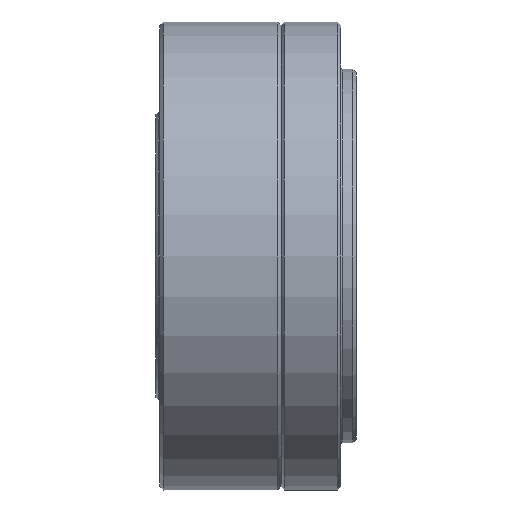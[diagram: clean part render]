
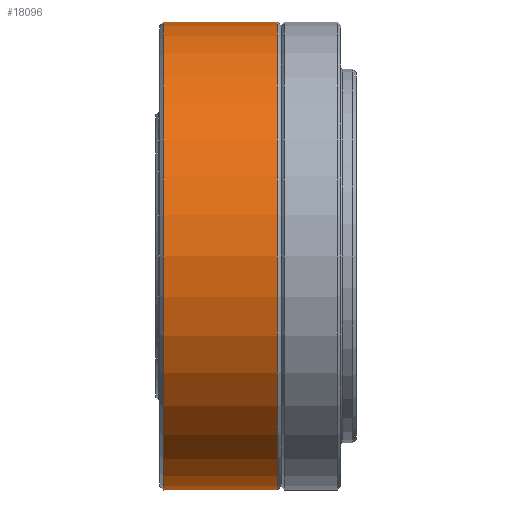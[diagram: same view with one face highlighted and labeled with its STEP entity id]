
A CAD part, front view. The second image highlights one B-rep face of the part: STEP entity #18096.
In plain terms, the highlighted cylindrical face has radius 31 mm (diameter 62 mm), a partial arc.
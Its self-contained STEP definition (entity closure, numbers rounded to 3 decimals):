
#17041=CARTESIAN_POINT('',(18.214,0.,0.));
#17042=DIRECTION('',(1.,0.,0.));
#17043=DIRECTION('',(0.,0.,1.));
#17044=AXIS2_PLACEMENT_3D('',#17041,#17042,#17043);
#17056=DIRECTION('',(1.,0.,0.));
#17057=VECTOR('',#17056,15.112);
#17058=CARTESIAN_POINT('',(3.102,0.,-31.));
#17059=LINE('',#17058,#17057);
#17060=DIRECTION('',(-1.,0.,0.));
#17061=VECTOR('',#17060,15.112);
#17062=CARTESIAN_POINT('',(18.214,0.,
31.));
#17063=LINE('',#17062,#17061);
#17068=CARTESIAN_POINT('',(3.102,0.,0.));
#17069=DIRECTION('',(-1.,0.,0.));
#17070=DIRECTION('',(0.,0.,-1.));
#17071=AXIS2_PLACEMENT_3D('',#17068,#17069,#17070);
#17796=CARTESIAN_POINT('',(3.102,0.,-31.));
#17797=VERTEX_POINT('',#17796);
#17798=CARTESIAN_POINT('',(3.102,0.,31.));
#17799=VERTEX_POINT('',#17798);
#17800=CARTESIAN_POINT('',(18.214,0.,
-31.));
#17801=CARTESIAN_POINT('',(18.214,0.,
31.));
#17802=VERTEX_POINT('',#17800);
#17803=VERTEX_POINT('',#17801);
#18084=CARTESIAN_POINT('',(18.214,0.,0.));
#18085=DIRECTION('',(-1.,0.,0.));
#18086=DIRECTION('',(0.,0.,1.));
#18087=AXIS2_PLACEMENT_3D('',#18084,#18085,#18086);
#18088=CYLINDRICAL_SURFACE('',#18087,31.);
#18089=ORIENTED_EDGE('',*,*,#18072,.F.);
#18091=ORIENTED_EDGE('',*,*,#18090,.T.);
#18092=ORIENTED_EDGE('',*,*,#18068,.F.);
#18093=ORIENTED_EDGE('',*,*,#18027,.T.);
#18094=EDGE_LOOP('',(#18089,#18091,#18092,#18093));
#18095=FACE_OUTER_BOUND('',#18094,.F.);
#17045=CIRCLE('',#17044,31.);
#17072=CIRCLE('',#17071,31.);
#18027=EDGE_CURVE('',#17803,#17802,#17045,.T.);
#18068=EDGE_CURVE('',#17803,#17799,#17063,.T.);
#18072=EDGE_CURVE('',#17797,#17802,#17059,.T.);
#18090=EDGE_CURVE('',#17797,#17799,#17072,.T.);
#18096=ADVANCED_FACE('',(#18095),#18088,.T.);
